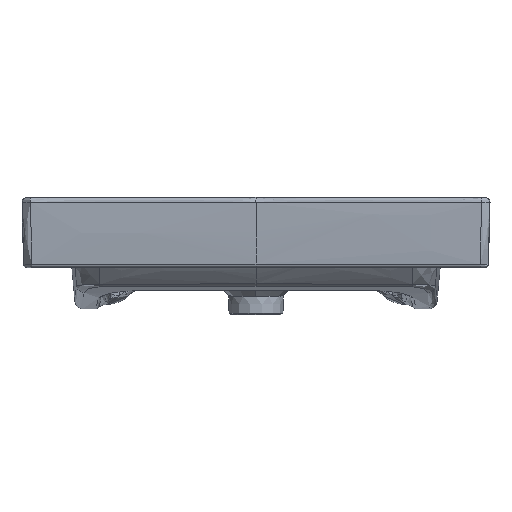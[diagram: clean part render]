
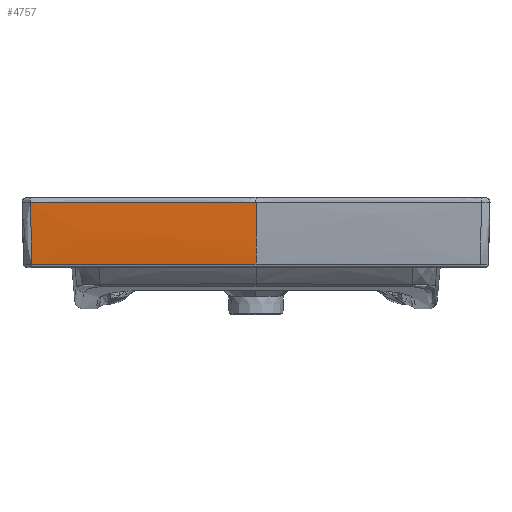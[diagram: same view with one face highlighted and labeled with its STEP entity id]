
A CAD part, front view. The second image highlights one B-rep face of the part: STEP entity #4757.
In plain terms, the highlighted free-form (B-spline) face has degree [3, 3] with [6, 7] control points.
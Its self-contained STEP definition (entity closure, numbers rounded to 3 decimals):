
#44=B_SPLINE_SURFACE_WITH_KNOTS('',3,3,((#30894,#30895,#30896,#30897,#30898,
#30899,#30900),(#30901,#30902,#30903,#30904,#30905,#30906,#30907),(#30908,
#30909,#30910,#30911,#30912,#30913,#30914),(#30915,#30916,#30917,#30918,
#30919,#30920,#30921),(#30922,#30923,#30924,#30925,#30926,#30927,#30928),
(#30929,#30930,#30931,#30932,#30933,#30934,#30935)),.UNSPECIFIED.,.F.,.F.,
 .F.,(4,1,1,4),(4,1,1,1,4),(0.,0.517,0.776,1.),
(0.,0.205,0.489,0.773,1.),
 .UNSPECIFIED.);
#424=B_SPLINE_CURVE_WITH_KNOTS('',3,(#30942,#30943,#30944,#30945),
 .UNSPECIFIED.,.F.,.F.,(4,4),(0.,1.),.UNSPECIFIED.);
#425=B_SPLINE_CURVE_WITH_KNOTS('',3,(#30949,#30950,#30951,#30952,#30953,
#30954,#30955,#30956,#30957,#30958),.UNSPECIFIED.,.F.,.F.,(4,2,2,2,4),(0.,
0.212,0.449,0.712,1.),.UNSPECIFIED.);
#426=B_SPLINE_CURVE_WITH_KNOTS('',3,(#30960,#30961,#30962,#30963,#30964,
#30965,#30966),.UNSPECIFIED.,.F.,.F.,(4,3,4),(0.,0.511,
1.),.UNSPECIFIED.);
#427=B_SPLINE_CURVE_WITH_KNOTS('',3,(#30967,#30968,#30969,#30970,#30971,
#30972,#30973,#30974,#30975,#30976,#30977,#30978,#30979),.UNSPECIFIED.,
 .F.,.F.,(4,3,3,3,4),(0.,0.297,0.517,0.776,
1.),.UNSPECIFIED.);
#775=FACE_OUTER_BOUND('',#1071,.T.);
#1071=EDGE_LOOP('',(#3356,#3357,#3358,#3359,#3360,#3361,#3362));
#1478=LINE('',#30947,#1611);
#1611=VECTOR('',#5491,0.002);
#1701=ELLIPSE('',#5063,108.236,4.054);
#1702=ELLIPSE('',#5064,72.508,2.463);
#1916=VERTEX_POINT('',#30936);
#1917=VERTEX_POINT('',#30937);
#1918=VERTEX_POINT('',#30939);
#1919=VERTEX_POINT('',#30941);
#1920=VERTEX_POINT('',#30946);
#1921=VERTEX_POINT('',#30948);
#1922=VERTEX_POINT('',#30959);
#2444=EDGE_CURVE('',#1916,#1917,#1701,.T.);
#2445=EDGE_CURVE('',#1918,#1916,#1702,.T.);
#2446=EDGE_CURVE('',#1919,#1918,#424,.T.);
#2447=EDGE_CURVE('',#1920,#1919,#1478,.T.);
#2448=EDGE_CURVE('',#1921,#1920,#425,.T.);
#2449=EDGE_CURVE('',#1922,#1921,#426,.T.);
#2450=EDGE_CURVE('',#1917,#1922,#427,.T.);
#3356=ORIENTED_EDGE('',*,*,#2444,.F.);
#3357=ORIENTED_EDGE('',*,*,#2445,.F.);
#3358=ORIENTED_EDGE('',*,*,#2446,.F.);
#3359=ORIENTED_EDGE('',*,*,#2447,.F.);
#3360=ORIENTED_EDGE('',*,*,#2448,.F.);
#3361=ORIENTED_EDGE('',*,*,#2449,.F.);
#3362=ORIENTED_EDGE('',*,*,#2450,.F.);
#4757=ADVANCED_FACE('',(#775),#44,.T.);
#5063=AXIS2_PLACEMENT_3D('',#30938,#5487,#5488);
#5064=AXIS2_PLACEMENT_3D('',#30940,#5489,#5490);
#5487=DIRECTION('center_axis',(1.,0.,0.));
#5488=DIRECTION('ref_axis',(0.,0.047,-0.999));
#5489=DIRECTION('center_axis',(1.,0.,0.));
#5490=DIRECTION('ref_axis',(0.,0.057,-0.998));
#5491=DIRECTION('',(1.,0.,-0.001));
#30894=CARTESIAN_POINT('Ctrl Pts',(0.,-486.952,
846.525));
#30895=CARTESIAN_POINT('Ctrl Pts',(0.,-486.753,
841.817));
#30896=CARTESIAN_POINT('Ctrl Pts',(0.,-486.157,
829.325));
#30897=CARTESIAN_POINT('Ctrl Pts',(0.,-484.842,
806.806));
#30898=CARTESIAN_POINT('Ctrl Pts',(0.,-483.197,
783.627));
#30899=CARTESIAN_POINT('Ctrl Pts',(0.,-482.057,
770.606));
#30900=CARTESIAN_POINT('Ctrl Pts',(0.,-481.548,
765.494));
#30901=CARTESIAN_POINT('Ctrl Pts',(-49.839,-486.945,846.346));
#30902=CARTESIAN_POINT('Ctrl Pts',(-49.835,-486.74,841.519));
#30903=CARTESIAN_POINT('Ctrl Pts',(-49.819,-486.136,828.955));
#30904=CARTESIAN_POINT('Ctrl Pts',(-49.761,-484.839,806.786));
#30905=CARTESIAN_POINT('Ctrl Pts',(-49.663,-483.223,783.975));
#30906=CARTESIAN_POINT('Ctrl Pts',(-49.577,-482.084,770.879));
#30907=CARTESIAN_POINT('Ctrl Pts',(-49.535,-481.561,765.625));
#30908=CARTESIAN_POINT('Ctrl Pts',(-124.591,-486.722,846.078));
#30909=CARTESIAN_POINT('Ctrl Pts',(-124.583,-486.511,841.073));
#30910=CARTESIAN_POINT('Ctrl Pts',(-124.544,-485.902,828.4));
#30911=CARTESIAN_POINT('Ctrl Pts',(-124.4,-484.634,806.755));
#30912=CARTESIAN_POINT('Ctrl Pts',(-124.156,-483.053,784.496));
#30913=CARTESIAN_POINT('Ctrl Pts',(-123.942,-481.912,771.289));
#30914=CARTESIAN_POINT('Ctrl Pts',(-123.837,-481.374,765.822));
#30915=CARTESIAN_POINT('Ctrl Pts',(-220.917,-485.916,845.732));
#30916=CARTESIAN_POINT('Ctrl Pts',(-220.904,-485.699,840.498));
#30917=CARTESIAN_POINT('Ctrl Pts',(-220.836,-485.092,827.684));
#30918=CARTESIAN_POINT('Ctrl Pts',(-220.583,-483.859,806.716));
#30919=CARTESIAN_POINT('Ctrl Pts',(-220.152,-482.301,785.168));
#30920=CARTESIAN_POINT('Ctrl Pts',(-219.775,-481.146,771.82));
#30921=CARTESIAN_POINT('Ctrl Pts',(-219.588,-480.595,766.076));
#30922=CARTESIAN_POINT('Ctrl Pts',(-267.413,-485.362,845.565));
#30923=CARTESIAN_POINT('Ctrl Pts',(-267.398,-485.141,840.22));
#30924=CARTESIAN_POINT('Ctrl Pts',(-267.315,-484.537,827.338));
#30925=CARTESIAN_POINT('Ctrl Pts',(-267.01,-483.317,806.696));
#30926=CARTESIAN_POINT('Ctrl Pts',(-266.488,-481.761,785.493));
#30927=CARTESIAN_POINT('Ctrl Pts',(-266.032,-480.593,772.077));
#30928=CARTESIAN_POINT('Ctrl Pts',(-265.806,-480.037,766.199));
#30929=CARTESIAN_POINT('Ctrl Pts',(-288.991,-485.058,845.487));
#30930=CARTESIAN_POINT('Ctrl Pts',(-288.975,-484.836,840.091));
#30931=CARTESIAN_POINT('Ctrl Pts',(-288.886,-484.234,827.178));
#30932=CARTESIAN_POINT('Ctrl Pts',(-288.557,-483.021,806.687));
#30933=CARTESIAN_POINT('Ctrl Pts',(-287.993,-481.467,785.644));
#30934=CARTESIAN_POINT('Ctrl Pts',(-287.501,-480.292,772.196));
#30935=CARTESIAN_POINT('Ctrl Pts',(-287.257,-479.735,766.256));
#30936=CARTESIAN_POINT('',(0.,-483.052,782.526));
#30937=CARTESIAN_POINT('',(0.,-481.621,766.237));
#30938=CARTESIAN_POINT('Origin',(0.,-483.325,
853.465));
#30939=CARTESIAN_POINT('',(0.,-484.864,807.955));
#30940=CARTESIAN_POINT('Origin',(0.,-483.277,
822.486));
#30941=CARTESIAN_POINT('',(0.,-486.918,845.709));
#30942=CARTESIAN_POINT('Ctrl Pts',(0.,-486.918,
845.709));
#30943=CARTESIAN_POINT('Ctrl Pts',(0.,-486.454,
834.915));
#30944=CARTESIAN_POINT('Ctrl Pts',(0.,-485.731,
821.48));
#30945=CARTESIAN_POINT('Ctrl Pts',(0.,-484.864,
807.955));
#30946=CARTESIAN_POINT('',(-0.002,-486.918,845.709));
#30947=CARTESIAN_POINT('',(-0.002,-486.918,845.709));
#30948=CARTESIAN_POINT('',(-288.991,-485.058,845.487));
#30949=CARTESIAN_POINT('Ctrl Pts',(-288.991,-485.058,
845.487));
#30950=CARTESIAN_POINT('Ctrl Pts',(-268.56,-485.344,
845.503));
#30951=CARTESIAN_POINT('Ctrl Pts',(-248.13,-485.587,845.518));
#30952=CARTESIAN_POINT('Ctrl Pts',(-204.86,-486.034,
845.551));
#30953=CARTESIAN_POINT('Ctrl Pts',(-182.022,-486.23,
845.568));
#30954=CARTESIAN_POINT('Ctrl Pts',(-133.899,-486.563,
845.605));
#30955=CARTESIAN_POINT('Ctrl Pts',(-108.614,-486.691,845.624));
#30956=CARTESIAN_POINT('Ctrl Pts',(-55.554,-486.872,
845.665));
#30957=CARTESIAN_POINT('Ctrl Pts',(-27.778,-486.917,
845.687));
#30958=CARTESIAN_POINT('Ctrl Pts',(-0.002,-486.918,
845.709));
#30959=CARTESIAN_POINT('',(-287.189,-479.736,766.256));
#30960=CARTESIAN_POINT('Ctrl Pts',(-287.189,-479.736,
766.256));
#30961=CARTESIAN_POINT('Ctrl Pts',(-287.76,-480.998,
779.707));
#30962=CARTESIAN_POINT('Ctrl Pts',(-288.195,-482.068,
793.182));
#30963=CARTESIAN_POINT('Ctrl Pts',(-288.496,-482.965,
806.671));
#30964=CARTESIAN_POINT('Ctrl Pts',(-288.785,-483.825,
819.598));
#30965=CARTESIAN_POINT('Ctrl Pts',(-288.951,-484.525,
832.539));
#30966=CARTESIAN_POINT('Ctrl Pts',(-288.991,-485.058,
845.487));
#30967=CARTESIAN_POINT('Ctrl Pts',(0.,-481.621,
766.237));
#30968=CARTESIAN_POINT('Ctrl Pts',(-28.458,-481.622,
766.237));
#30969=CARTESIAN_POINT('Ctrl Pts',(-56.916,-481.576,
766.237));
#30970=CARTESIAN_POINT('Ctrl Pts',(-85.374,-481.476,
766.238));
#30971=CARTESIAN_POINT('Ctrl Pts',(-106.453,-481.402,
766.239));
#30972=CARTESIAN_POINT('Ctrl Pts',(-127.532,-481.298,
766.24));
#30973=CARTESIAN_POINT('Ctrl Pts',(-148.611,-481.16,
766.242));
#30974=CARTESIAN_POINT('Ctrl Pts',(-173.377,-480.999,766.244));
#30975=CARTESIAN_POINT('Ctrl Pts',(-198.142,-480.791,766.246));
#30976=CARTESIAN_POINT('Ctrl Pts',(-222.907,-480.531,
766.249));
#30977=CARTESIAN_POINT('Ctrl Pts',(-244.335,-480.306,
766.251));
#30978=CARTESIAN_POINT('Ctrl Pts',(-265.762,-480.043,766.254));
#30979=CARTESIAN_POINT('Ctrl Pts',(-287.189,-479.736,
766.256));
